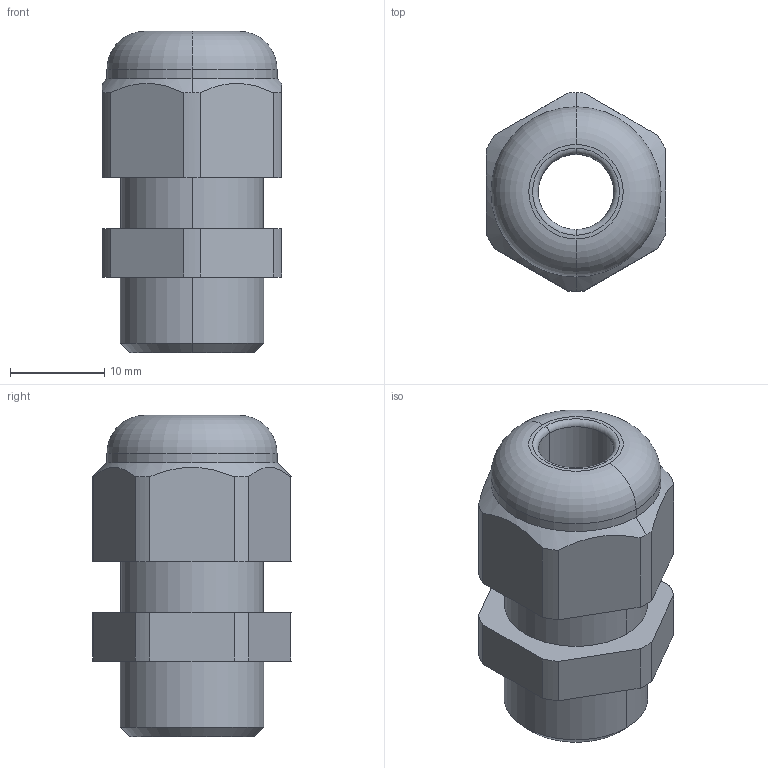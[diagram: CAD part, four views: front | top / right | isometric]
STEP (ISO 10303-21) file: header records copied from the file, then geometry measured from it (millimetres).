
FILE_DESCRIPTION (( 'STEP AP203' ), '1' );
FILE_NAME ('50.009 PA.STEP', '2006-11-07T08:24:25', ( ' ' ), ( '' ), 'SwSTEP 2.0', 'SolidWorks 2005278', '' );
FILE_SCHEMA (( 'CONFIG_CONTROL_DESIGN' ));
Length unit declared in the file: millimetre
Products named in the file (1): 50.009 PA
Bounding box: 19 x 21 x 34 mm (x, y, z)
Volume: 6584.8 mm3; surface area: 3374.8 mm2
Topology: 1 solids, 1 shells, 86 faces, 223 edges, 145 vertices
Faces by surface type: plane 54, cylinder 22, torus 6, cone 4
Entity records: 2757 total; most frequent: CARTESIAN_POINT 525, DIRECTION 450, ORIENTED_EDGE 446, EDGE_CURVE 223, VECTOR 158, LINE 158, AXIS2_PLACEMENT_3D 146, VERTEX_POINT 145
